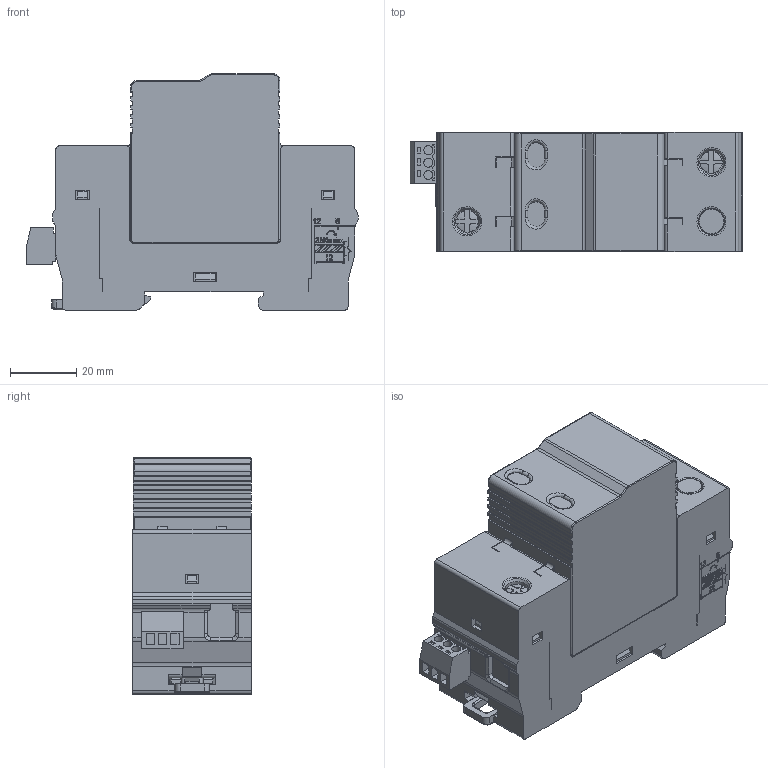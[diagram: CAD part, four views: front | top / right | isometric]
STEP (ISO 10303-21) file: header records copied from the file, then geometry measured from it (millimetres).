
FILE_DESCRIPTION (( 'STEP AP203' ), '1' );
FILE_NAME ('WTH-80_1P(22).STEP', '2023-12-28T05:30:01', ( '微软用户' ), ( '微软中国' ), 'SwSTEP 2.0', 'SolidWorks 2016', '' );
FILE_SCHEMA (( 'CONFIG_CONTROL_DESIGN' ));
Length unit declared in the file: millimetre
Products named in the file (1): WTH-80_1P(22)
Bounding box: 100 x 35.8 x 71.2 mm (x, y, z)
Volume: 174079.7 mm3; surface area: 45068.2 mm2
Topology: 1 solids, 26 shells, 2434 faces, 6785 edges, 4475 vertices
Faces by surface type: plane 2084, cylinder 284, bspline 50, cone 16
Full cylindrical faces by diameter (mm): 2.7 x3, 7 x3, 8 x4
Entity records: 79519 total; most frequent: CARTESIAN_POINT 17203, ORIENTED_EDGE 13506, DIRECTION 11824, EDGE_CURVE 6753, LINE 5988, VECTOR 5988, VERTEX_POINT 4469, AXIS2_PLACEMENT_3D 2918
